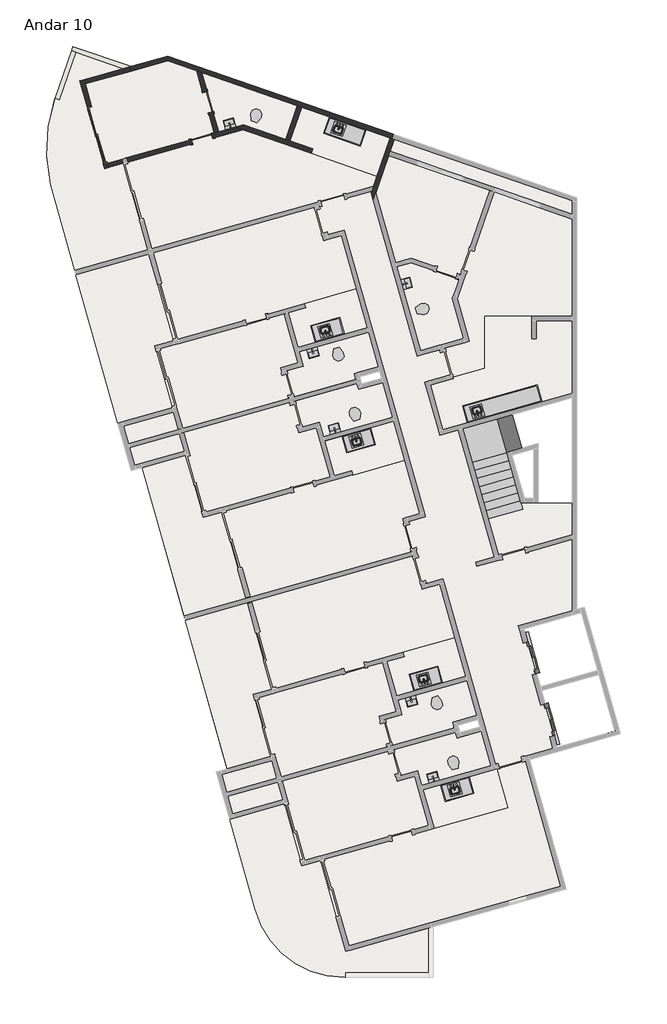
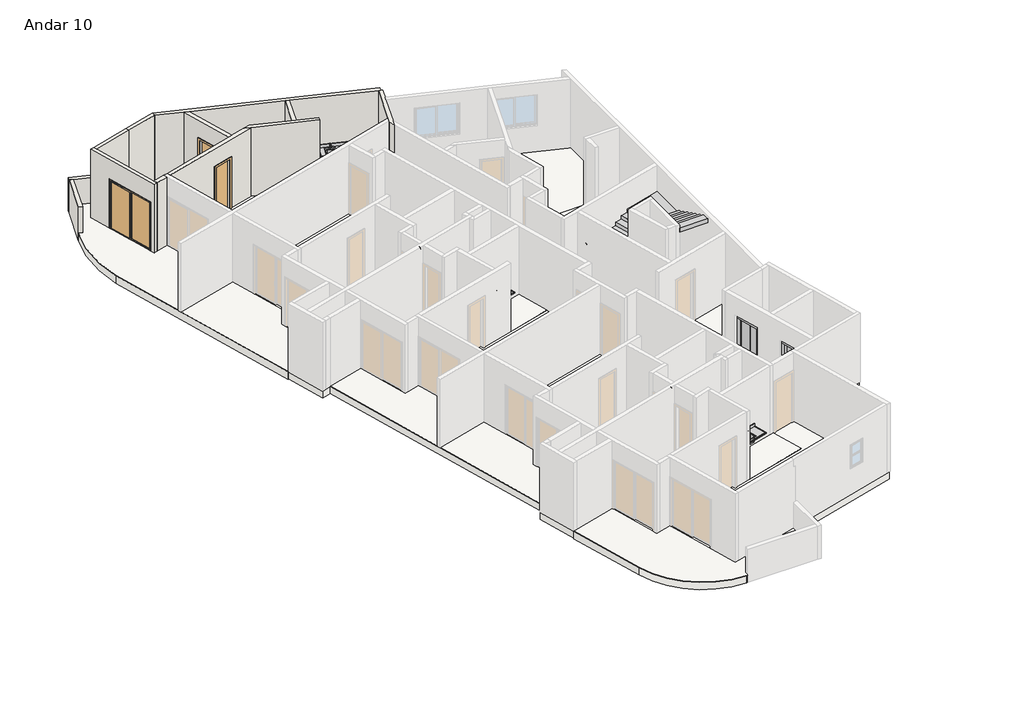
# One storey, part 3 of 3: 18 flow terminals, 18 slabs, 12 walls, 8 proxies, 3 doors, 1 stair flight.
"""IFC4 building model written with IfcOpenShell, lengths in millimetres."""

from ifc_helpers import new_model, si_unit, point, frame, frame_2d, origin, place, context, project, spatial, polyline, circle_curve, trimmed, segment, composite_curve, outline, extrude, faceted_brep, transform, mapped, element, save
from components import specialty_equipment_6c35da8b, specialty_equipment_77dfa124, rf_bancada_cozinha_rf_bancada_cozinha_340fef9f, rf_bancada_cozinha_rf_bancada_cozinha_cfb88ba1, rf_bancada_cozinha_rf_bancada_cozinha_2f873929, rf_bancada_cozinha_rf_bancada_cozinha_798ceddf, p3_70cm_ef4d15e3, p3_70cm_0a698c7c, p4_correr_200cm_eaaa0877, flow_terminal_cab7bae2, flow_terminal_3fb7dc42, flow_terminal_e42b9071, flow_terminal_c6e042c4, ap_01_creme_cr37_13e02e03, ap_01_creme_cr37_5ce6e54d

model = new_model("IFC4")

# Units and contexts
model_context = context("Model", 3, world=origin())
ifc_project = project(units=[si_unit("LENGTHUNIT", "METRE", prefix="MILLI")], contexts=[model_context])

# Site, building, storey
site = spatial("IfcSite", under=ifc_project)
building = spatial("IfcBuilding", under=site)
storey = spatial("IfcBuildingStorey", under=building, Name="Andar 10", Elevation=79750.0)

# Proxies
placement = place(None, origin())
specialty_equipment_shape = specialty_equipment_6c35da8b(model_context)
element("IfcBuildingElementProxy", 1, Name="Porta do elevador : Porta do elevador", ObjectType="Porta do elevador : Porta do elevador", at=placement, inside=storey, context=model_context, shape_type="MappedRepresentation", body=[
    mapped(specialty_equipment_shape, transform((-76594.4337486, 15747.4543727, 79750.0), x_axis=(0.27176796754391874, -0.9623628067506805, 0.0), y_axis=(0.9623628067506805, 0.27176796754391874, 0.0), z_axis=(0.0, 0.0, 1.0))),
])
specialty_equipment_2_shape = specialty_equipment_77dfa124(model_context)
element("IfcBuildingElementProxy", 2, Name="Porta do elevador : Porta do elevador", ObjectType="Porta do elevador : Porta do elevador", at=placement, inside=storey, context=model_context, shape_type="MappedRepresentation", body=[
    mapped(specialty_equipment_2_shape, transform((-75942.1906265, 13437.7836365, 79750.0), x_axis=(-0.27176796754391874, 0.9623628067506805, 0.0), y_axis=(-0.9623628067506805, -0.27176796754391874, 0.0), z_axis=(0.0, 0.0, 1.0))),
])
rf_bancada_cozinha_rf_bancada_cozinha_shape = rf_bancada_cozinha_rf_bancada_cozinha_340fef9f(model_context)
element("IfcBuildingElementProxy", 3, Name="RF_Bancada Cozinha : RF_Bancada Cozinha", ObjectType="RF_Bancada Cozinha : RF_Bancada Cozinha", at=placement, inside=storey, context=model_context, shape_type="MappedRepresentation", body=[
    mapped(rf_bancada_cozinha_rf_bancada_cozinha_shape, transform((-82760.548019, 26451.5820971, 80500.0), x_axis=(-0.9623628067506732, -0.27176796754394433, 0.0), y_axis=(0.27176796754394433, -0.9623628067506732, 0.0), z_axis=(0.0, 0.0, 1.0))),
])
element("IfcBuildingElementProxy", 4, Name="RF_Bancada Cozinha : RF_Bancada Cozinha", ObjectType="RF_Bancada Cozinha : RF_Bancada Cozinha", at=placement, inside=storey, context=model_context, shape_type="MappedRepresentation", body=[
    mapped(rf_bancada_cozinha_rf_bancada_cozinha_shape, transform((-79472.1556117, 14806.9921354, 80500.0), x_axis=(-0.962362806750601, -0.2717679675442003, 0.0), y_axis=(0.2717679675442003, -0.962362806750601, 0.0), z_axis=(0.0, 0.0, 1.0))),
])
rf_bancada_cozinha_rf_bancada_cozinha_2_shape = rf_bancada_cozinha_rf_bancada_cozinha_cfb88ba1(model_context)
element("IfcBuildingElementProxy", 5, Name="RF_Bancada Cozinha : RF_Bancada Cozinha", ObjectType="RF_Bancada Cozinha : RF_Bancada Cozinha", at=placement, inside=storey, context=model_context, shape_type="MappedRepresentation", body=[
    mapped(rf_bancada_cozinha_rf_bancada_cozinha_2_shape, transform((-81877.3021245, 23323.9029751, 80500.0), x_axis=(-0.9623628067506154, -0.27176796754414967, 0.0), y_axis=(0.27176796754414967, -0.9623628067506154, 0.0), z_axis=(0.0, 0.0, 1.0))),
])
element("IfcBuildingElementProxy", 6, Name="RF_Bancada Cozinha : RF_Bancada Cozinha", ObjectType="RF_Bancada Cozinha : RF_Bancada Cozinha", at=placement, inside=storey, context=model_context, shape_type="MappedRepresentation", body=[
    mapped(rf_bancada_cozinha_rf_bancada_cozinha_2_shape, transform((-78588.9097172, 11679.3130134, 80500.0), x_axis=(-0.9623628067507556, -0.27176796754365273, 0.0), y_axis=(0.27176796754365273, -0.9623628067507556, 0.0), z_axis=(0.0, 0.0, 1.0))),
])
rf_bancada_cozinha_rf_bancada_cozinha_3_shape = rf_bancada_cozinha_rf_bancada_cozinha_2f873929(model_context)
element("IfcBuildingElementProxy", 7, Name="RF_Bancada Cozinha : RF_Bancada Cozinha", ObjectType="RF_Bancada Cozinha : RF_Bancada Cozinha", at=placement, inside=storey, context=model_context, shape_type="MappedRepresentation", body=[
    mapped(rf_bancada_cozinha_rf_bancada_cozinha_3_shape, transform((-82030.0326121, 33293.9830661, 80500.0), x_axis=(-0.9449109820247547, 0.32732741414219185, 0.0), y_axis=(-0.32732741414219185, -0.9449109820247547, 0.0), z_axis=(0.0, 0.0, 1.0))),
])
rf_bancada_cozinha_rf_bancada_cozinha_4_shape = rf_bancada_cozinha_rf_bancada_cozinha_798ceddf(model_context)
element("IfcBuildingElementProxy", 8, Name="RF_Bancada Cozinha : RF_Bancada Cozinha", ObjectType="RF_Bancada Cozinha : RF_Bancada Cozinha", at=placement, inside=storey, context=model_context, shape_type="MappedRepresentation", body=[
    mapped(rf_bancada_cozinha_rf_bancada_cozinha_4_shape, transform((-76157.6622331, 24197.9763092, 80500.0), x_axis=(-0.9623628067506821, -0.27176796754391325, 0.0), y_axis=(0.27176796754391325, -0.9623628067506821, 0.0), z_axis=(0.0, 0.0, 1.0))),
])

# Doors
p3_70cm_shape = p3_70cm_ef4d15e3(model_context)
element("IfcDoor", 9, ObjectType="M_Folha única1 : P3 - 70CM", at=placement, inside=storey, context=model_context, shape_type="MappedRepresentation", body=[
    mapped(p3_70cm_shape, transform((-87513.806232, 32980.5300491, 79750.0), x_axis=(0.9623628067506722, 0.2717679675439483, 0.0), y_axis=(-0.2717679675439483, 0.9623628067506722, 0.0), z_axis=(0.0, 0.0, 1.0))),
])
p3_70cm_2_shape = p3_70cm_0a698c7c(model_context)
element("IfcDoor", 10, ObjectType="M_Folha única1 : P3 - 70CM", at=placement, inside=storey, context=model_context, shape_type="MappedRepresentation", body=[
    mapped(p3_70cm_2_shape, transform((-87314.304722, 34205.8663896, 79750.0), x_axis=(-0.2717679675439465, 0.9623628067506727, 0.0), y_axis=(-0.9623628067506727, -0.2717679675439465, 0.0), z_axis=(0.0, 0.0, 1.0))),
])
p4_correr_200cm_shape = p4_correr_200cm_eaaa0877(model_context)
element("IfcDoor", 11, ObjectType="Porta de correr dupla envidraçada sem revestimento : P4 - CORRER - 200CM", at=placement, inside=storey, context=model_context, shape_type="MappedRepresentation", body=[
    mapped(p4_correr_200cm_shape, transform((-91005.8131296, 33111.4415743, 79750.0), x_axis=(0.2717679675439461, -0.9623628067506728, 0.0), y_axis=(0.9623628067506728, 0.2717679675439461, 0.0), z_axis=(0.0, 0.0, 1.0))),
])

# Flow terminals
flow_terminal_shape = flow_terminal_cab7bae2(model_context)
element("IfcFlowTerminal", 12, ObjectType="RF_Pias : Pia da Bancada", at=placement, inside=storey, context=model_context, shape_type="MappedRepresentation", body=[
    mapped(flow_terminal_shape, transform((-83380.5102831, 26570.4992214, 79602.9), x_axis=(-0.9623628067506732, -0.27176796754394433, 0.0), y_axis=(0.27176796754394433, -0.9623628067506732, 0.0), z_axis=(0.0, 0.0, 1.0))),
])
element("IfcFlowTerminal", 13, ObjectType="RF_Pias : Pia da Bancada", at=placement, inside=storey, context=model_context, shape_type="MappedRepresentation", body=[
    mapped(flow_terminal_shape, transform((-80092.1178758, 14925.9092597, 79602.9), x_axis=(-0.962362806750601, -0.2717679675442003, 0.0), y_axis=(0.2717679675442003, -0.962362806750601, 0.0), z_axis=(0.0, 0.0, 1.0))),
])
element("IfcFlowTerminal", 14, ObjectType="RF_Pias : Pia da Bancada", at=placement, inside=storey, context=model_context, shape_type="MappedRepresentation", body=[
    mapped(flow_terminal_shape, transform((-78306.8185143, 23885.0542694, 79602.9), x_axis=(-0.9623628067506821, -0.27176796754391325, 0.0), y_axis=(0.27176796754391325, -0.9623628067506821, 0.0), z_axis=(0.0, 0.0, 1.0))),
])
flow_terminal_2_shape = flow_terminal_3fb7dc42(model_context)
element("IfcFlowTerminal", 15, ObjectType="Deca_Cuba de Apoio Retangular_L7300 : L.7300.17_Branco Gelo GE17", at=placement, inside=storey, context=model_context, shape_type="MappedRepresentation", body=[
    mapped(flow_terminal_2_shape, transform((-83090.0822283, 23308.7374016, 80500.0), x_axis=(-0.9623628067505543, -0.2717679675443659, 0.0), y_axis=(0.2717679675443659, -0.9623628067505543, 0.0), z_axis=(0.0, 0.0, 1.0))),
])
element("IfcFlowTerminal", 16, ObjectType="Deca_Cuba de Apoio Retangular_L7300 : L.7300.17_Branco Gelo GE17", at=placement, inside=storey, context=model_context, shape_type="MappedRepresentation", body=[
    mapped(flow_terminal_2_shape, transform((-79801.689821, 11664.1474399, 80500.0), x_axis=(-0.9623628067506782, -0.2717679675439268, 0.0), y_axis=(0.2717679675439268, -0.9623628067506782, 0.0), z_axis=(0.0, 0.0, 1.0))),
])
element("IfcFlowTerminal", 17, ObjectType="Deca_Cuba de Apoio Retangular_L7300 : L.7300.17_Branco Gelo GE17", at=placement, inside=storey, context=model_context, shape_type="MappedRepresentation", body=[
    mapped(flow_terminal_2_shape, transform((-80677.0991462, 28154.8020678, 80500.0), x_axis=(-0.2717679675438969, 0.9623628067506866, 0.0), y_axis=(-0.9623628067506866, -0.2717679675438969, 0.0), z_axis=(0.0, 0.0, 1.0))),
])
element("IfcFlowTerminal", 18, ObjectType="Deca_Cuba de Apoio Retangular_L7300 : L.7300.17_Branco Gelo GE17", at=placement, inside=storey, context=model_context, shape_type="MappedRepresentation", body=[
    mapped(flow_terminal_2_shape, transform((-86597.4204814, 33488.7004496, 80500.0), x_axis=(-0.9623628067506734, -0.27176796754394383, 0.0), y_axis=(0.27176796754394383, -0.9623628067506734, 0.0), z_axis=(0.0, 0.0, 1.0))),
])
flow_terminal_3_shape = flow_terminal_e42b9071(model_context)
element("IfcFlowTerminal", 19, ObjectType="Deca_Cuba de Apoio Retangular_L7300 : L.7300.17_Branco Gelo GE17", at=placement, inside=storey, context=model_context, shape_type="MappedRepresentation", body=[
    mapped(flow_terminal_3_shape, transform((-83802.1143033, 25830.1279553, 80500.0), x_axis=(-0.9623628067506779, -0.2717679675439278, 0.0), y_axis=(0.2717679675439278, -0.9623628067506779, 0.0), z_axis=(0.0, 0.0, 1.0))),
])
element("IfcFlowTerminal", 20, ObjectType="Deca_Cuba de Apoio Retangular_L7300 : L.7300.17_Branco Gelo GE17", at=placement, inside=storey, context=model_context, shape_type="MappedRepresentation", body=[
    mapped(flow_terminal_3_shape, transform((-80513.721896, 14185.5379936, 80500.0), x_axis=(-0.962362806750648, -0.27176796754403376, 0.0), y_axis=(0.27176796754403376, -0.962362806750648, 0.0), z_axis=(0.0, 0.0, 1.0))),
])
flow_terminal_4_shape = flow_terminal_c6e042c4(model_context)
element("IfcFlowTerminal", 21, ObjectType="RF_Pias : Pia da Bancada", at=placement, inside=storey, context=model_context, shape_type="MappedRepresentation", body=[
    mapped(flow_terminal_4_shape, transform((-82343.483233, 22898.2626745, 79602.9), x_axis=(-0.9623628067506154, -0.27176796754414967, 0.0), y_axis=(0.27176796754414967, -0.9623628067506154, 0.0), z_axis=(0.0, 0.0, 1.0))),
])
element("IfcFlowTerminal", 22, ObjectType="RF_Pias : Pia da Bancada", at=placement, inside=storey, context=model_context, shape_type="MappedRepresentation", body=[
    mapped(flow_terminal_4_shape, transform((-79055.0908257, 11253.6727129, 79602.9), x_axis=(-0.9623628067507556, -0.27176796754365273, 0.0), y_axis=(0.27176796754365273, -0.9623628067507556, 0.0), z_axis=(0.0, 0.0, 1.0))),
])
element("IfcFlowTerminal", 23, ObjectType="RF_Pias : Pia da Bancada", at=placement, inside=storey, context=model_context, shape_type="MappedRepresentation", body=[
    mapped(flow_terminal_4_shape, transform((-82939.3392028, 33309.5545572, 79602.9), x_axis=(-0.9449109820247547, 0.32732741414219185, 0.0), y_axis=(-0.32732741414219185, -0.9449109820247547, 0.0), z_axis=(0.0, 0.0, 1.0))),
])
ap_01_creme_cr37_shape = ap_01_creme_cr37_13e02e03(model_context)
element("IfcFlowTerminal", 24, ObjectType="Deca_Shared_Assento_P.900 : AP.01_Creme CR37", at=placement, inside=storey, context=model_context, shape_type="MappedRepresentation", body=[
    mapped(ap_01_creme_cr37_shape, transform((-83017.5301151, 25983.4740486, 80137.8723674), x_axis=(0.9623628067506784, 0.2717679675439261, 0.0), y_axis=(0.0, 0.0, 1.0), z_axis=(0.2717679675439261, -0.9623628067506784, 0.0))),
])
element("IfcFlowTerminal", 25, ObjectType="Deca_Shared_Assento_P.900 : AP.01_Creme CR37", at=placement, inside=storey, context=model_context, shape_type="MappedRepresentation", body=[
    mapped(ap_01_creme_cr37_shape, transform((-79729.1377078, 14338.8840869, 80137.8723674), x_axis=(0.962362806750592, 0.2717679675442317, 0.0), y_axis=(0.0, 0.0, 1.0), z_axis=(0.2717679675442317, -0.962362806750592, 0.0))),
])
element("IfcFlowTerminal", 26, ObjectType="Deca_Shared_Assento_P.900 : AP.01_Creme CR37", at=placement, inside=storey, context=model_context, shape_type="MappedRepresentation", body=[
    mapped(ap_01_creme_cr37_shape, transform((-80349.5164684, 27236.3600819, 80137.8723674), x_axis=(-0.271767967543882, 0.9623628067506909, 0.0), y_axis=(0.0, 0.0, 1.0), z_axis=(0.9623628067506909, 0.271767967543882, 0.0))),
])
element("IfcFlowTerminal", 27, ObjectType="Deca_Shared_Assento_P.900 : AP.01_Creme CR37", at=placement, inside=storey, context=model_context, shape_type="MappedRepresentation", body=[
    mapped(ap_01_creme_cr37_shape, transform((-85777.8760768, 33566.4131555, 80137.8723674), x_axis=(-0.9449109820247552, 0.3273274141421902, 0.0), y_axis=(0.0, 0.0, 1.0000000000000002), z_axis=(0.3273274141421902, 0.9449109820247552, 0.0))),
])
ap_01_creme_cr37_2_shape = ap_01_creme_cr37_5ce6e54d(model_context)
element("IfcFlowTerminal", 28, ObjectType="Deca_Shared_Assento_P.900 : AP.01_Creme CR37", at=placement, inside=storey, context=model_context, shape_type="MappedRepresentation", body=[
    mapped(ap_01_creme_cr37_2_shape, transform((-82341.1813229, 23588.4422577, 80137.8723674), x_axis=(0.9623628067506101, 0.27176796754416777, 0.0), y_axis=(0.0, 0.0, -1.0), z_axis=(-0.27176796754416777, 0.9623628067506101, 0.0))),
])
element("IfcFlowTerminal", 29, ObjectType="Deca_Shared_Assento_P.900 : AP.01_Creme CR37", at=placement, inside=storey, context=model_context, shape_type="MappedRepresentation", body=[
    mapped(ap_01_creme_cr37_2_shape, transform((-79052.7889156, 11943.852296, 80137.8723674), x_axis=(0.9623628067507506, 0.2717679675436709, 0.0), y_axis=(0.0, 0.0, -1.0000000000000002), z_axis=(-0.2717679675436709, 0.9623628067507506, 0.0))),
])

# Slabs
element("IfcSlab", 30, ObjectType="TZ_Piso de Áreas Molhadas", at=placement, inside=storey, context=model_context, shape_type="SweptSolid", body=[
    extrude(outline(composite_curve([segment(polyline([(-90765.4571774, 31984.341749), (-90143.7425806, 32159.9118263), (-89328.438678, 29272.823406), (-91766.0080564, 28584.4621444), (-92573.2320087, 31442.9384962)]), True, "CONTINUOUS"), segment(trimmed(circle_curve(frame_2d((-87414.5556743, 32622.5665107)), 5291.829908), [point((-92573.2320087, 31442.9384962))], [point((-92422.0860726, 34333.7366032))], False, "CARTESIAN"), True, "CONTINUOUS"), segment(polyline([(-92422.0860726, 34333.7366032), (-92280.2794148, 34284.6132387), (-91729.7010481, 35873.9929322), (-90151.0501028, 35327.1311202), (-91594.3494784, 34919.5483093), (-90765.4571774, 31984.341749)]), True, "CONTINUOUS")], self_intersect=False)), frame((0.0, 0.0, 79750.0), z_axis=(0.0, 0.0, 1.0), x_axis=(1.0, 0.0, 0.0)), (0.0, 0.0, 1.0), 20.0),
])
element("IfcSlab", 31, ObjectType="TZ_Piso de Áreas Molhadas", at=placement, inside=storey, context=model_context, shape_type="SweptSolid", body=[
    extrude(outline(polyline([(-88472.3695802, 26241.3805647), (-89094.084177, 26065.8104874), (-88509.7830468, 23996.7304529), (-90325.6378284, 23483.9392686), (-91725.2428613, 28440.1077234), (-89287.6734828, 29128.468985), (-88472.3695802, 26241.3805647)])), frame((0.0, 0.0, 79750.0), z_axis=(0.0, 0.0, 1.0), x_axis=(1.0, 0.0, 0.0)), (0.0, 0.0, 1.0), 20.0),
])
element("IfcSlab", 32, ObjectType="TZ_Piso de Áreas Molhadas", at=placement, inside=storey, context=model_context, shape_type="SweptSolid", body=[
    extrude(outline(polyline([(-86855.3501733, 20515.3218645), (-86040.0462707, 17628.2334443), (-88109.1263052, 17043.9323141), (-89508.731338, 22000.1007688), (-88061.3659003, 22408.8318218), (-87477.0647701, 20339.7517872), (-86855.3501733, 20515.3218645)])), frame((0.0, 0.0, 79750.0), z_axis=(0.0, 0.0, 1.0), x_axis=(1.0, 0.0, 0.0)), (0.0, 0.0, 1.0), 20.0),
])
element("IfcSlab", 33, ObjectType="TZ_Piso de Áreas Molhadas", at=placement, inside=storey, context=model_context, shape_type="SweptSolid", body=[
    extrude(outline(polyline([(-78926.5637691, 28284.9851582), (-79146.9727346, 27648.7205404), (-78771.1333302, 26317.8283554), (-80214.6775403, 25910.176404), (-81004.3851492, 28706.6252933), (-80530.2499593, 28840.5194505), (-78926.5637691, 28284.9851582)])), frame((0.0, 0.0, 79750.0), z_axis=(0.0, 0.0, 1.0), x_axis=(1.0, 0.0, 0.0)), (0.0, 0.0, 1.0), 20.0),
])
element("IfcSlab", 34, ObjectType="TZ_Piso de Áreas Molhadas", at=placement, inside=storey, context=model_context, shape_type="SweptSolid", body=[
    extrude(outline(polyline([(-78070.9150345, 27060.8243598), (-76493.6479314, 27060.8243598), (-76493.6479314, 26310.8243598), (-76343.6479314, 26310.8243598), (-76343.6479314, 26910.8243598), (-75147.8282189, 26910.8243598), (-75147.8282189, 24483.4871675), (-79467.3156296, 23263.6786855), (-79888.5559793, 24755.3410359), (-79127.7601479, 24970.1871785), (-79141.3485461, 25018.3053183), (-78070.9150345, 25320.5920836), (-78070.9150345, 27060.8243598)])), frame((0.0, 0.0, 79750.0), z_axis=(0.0, 0.0, 1.0), x_axis=(1.0, 0.0, 0.0)), (0.0, 0.0, 1.0), 20.0),
])
element("IfcSlab", 35, ObjectType="TZ_Piso de Áreas Molhadas", at=placement, inside=storey, context=model_context, shape_type="SweptSolid", body=[
    extrude(outline(polyline([(-84719.4810559, 32955.6762822), (-86137.8721095, 33447.0223292), (-86956.7711455, 33215.7680402), (-87515.4733556, 35194.1992432), (-84326.6881589, 34089.5694606), (-84719.4810559, 32955.6762822)])), frame((0.0, 0.0, 79750.0), z_axis=(0.0, 0.0, 1.0), x_axis=(1.0, 0.0, 0.0)), (0.0, 0.0, 1.0), 20.0),
])
element("IfcSlab", 36, ObjectType="TZ_Piso de Áreas Molhadas", at=placement, inside=storey, context=model_context, shape_type="SweptSolid", body=[
    extrude(outline(polyline([(-84577.7444086, 32906.57717), (-84184.9515116, 34040.4703485), (-81226.8582774, 33015.7547641), (-81668.7502865, 31740.1249383), (-83870.9147351, 32502.9785914), (-83821.815623, 32644.7152387), (-84577.7444086, 32906.57717)])), frame((0.0, 0.0, 79750.0), z_axis=(0.0, 0.0, 1.0), x_axis=(1.0, 0.0, 0.0)), (0.0, 0.0, 1.0), 20.0),
])
element("IfcSlab", 37, ObjectType="TZ_Piso de Áreas Molhadas", at=placement, inside=storey, context=model_context, shape_type="SweptSolid", body=[
    extrude(outline(polyline([(-81949.8925784, 26524.6420501), (-81623.7710174, 25369.806682), (-82432.1557751, 25141.5215893), (-82377.8021816, 24949.0490279), (-84456.5058441, 24362.030218), (-84701.0970149, 25228.1567441), (-84123.6793309, 25391.2175246), (-84259.5633146, 25872.398928), (-81949.8925784, 26524.6420501)])), frame((0.0, 0.0, 79750.0), z_axis=(0.0, 0.0, 1.0), x_axis=(1.0, 0.0, 0.0)), (0.0, 0.0, 1.0), 20.0),
])
element("IfcSlab", 38, ObjectType="TZ_Piso de Áreas Molhadas", at=placement, inside=storey, context=model_context, shape_type="SweptSolid", body=[
    extrude(outline(polyline([(-84089.7975819, 27479.0039186), (-82357.5445298, 27968.1862602), (-81990.6577736, 26668.9964711), (-84300.3285098, 26016.753349), (-84626.4500708, 27171.5887171), (-84049.0323868, 27334.6494976), (-84089.7975819, 27479.0039186)])), frame((0.0, 0.0, 79750.0), z_axis=(0.0, 0.0, 1.0), x_axis=(1.0, 0.0, 0.0)), (0.0, 0.0, 1.0), 20.0),
])
element("IfcSlab", 39, ObjectType="TZ_Piso de Áreas Molhadas", at=placement, inside=storey, context=model_context, shape_type="SweptSolid", body=[
    extrude(outline(polyline([(-84171.1494782, 23351.5492709), (-84415.740649, 24217.675797), (-82337.0369864, 24804.6946069), (-82282.6833929, 24612.2220455), (-81474.2986352, 24840.5071383), (-81148.1770742, 23685.6717702), (-83457.8478104, 23033.4286481), (-83593.7317942, 23514.6100514), (-84171.1494782, 23351.5492709)])), frame((0.0, 0.0, 79750.0), z_axis=(0.0, 0.0, 1.0), x_axis=(1.0, 0.0, 0.0)), (0.0, 0.0, 1.0), 20.0),
])
element("IfcSlab", 40, ObjectType="TZ_Piso de Áreas Molhadas", at=placement, inside=storey, context=model_context, shape_type="SweptSolid", body=[
    extrude(outline(composite_curve([segment(polyline([(-79945.4990038, 5119.4122055), (-82713.5540687, 5119.4122055), (-82713.5540687, 4969.4122055), (-82751.3896972, 4969.4122055)]), True, "CONTINUOUS"), segment(trimmed(circle_curve(frame_2d((-82751.3896972, 8069.4122055)), 3100.0), [point((-82751.3896972, 4969.4122055))], [point((-85734.7143981, 7226.9315061))], False, "CARTESIAN"), True, "CONTINUOUS"), segment(polyline([(-85734.7143981, 7226.9315061), (-86588.8282733, 10251.4506708), (-84772.9735093, 10764.2419177), (-84188.6722855, 8695.1618243), (-83566.957766, 8870.7319029), (-82710.8885369, 5839.2889958), (-79945.4990038, 6620.2256515), (-79945.4990038, 5119.4122055)]), True, "CONTINUOUS")], self_intersect=False)), frame((0.0, 0.0, 79750.0), z_axis=(0.0, 0.0, 1.0), x_axis=(1.0, 0.0, 0.0)), (0.0, 0.0, 1.0), 20.0),
])
element("IfcSlab", 41, ObjectType="TZ_Piso de Áreas Molhadas", at=placement, inside=storey, context=model_context, shape_type="SweptSolid", body=[
    extrude(outline(polyline([(-78185.906228, 13195.9171766), (-77859.7846669, 12041.0818085), (-80169.4554031, 11388.8386864), (-80305.3393869, 11870.0200898), (-80882.7570709, 11706.9593092), (-81127.3482417, 12573.0858353), (-79048.6445791, 13160.1046452), (-78994.2909856, 12967.6320839), (-78185.906228, 13195.9171766)])), frame((0.0, 0.0, 79750.0), z_axis=(0.0, 0.0, 1.0), x_axis=(1.0, 0.0, 0.0)), (0.0, 0.0, 1.0), 20.0),
])
element("IfcSlab", 42, ObjectType="TZ_Piso de Áreas Molhadas", at=placement, inside=storey, context=model_context, shape_type="SweptSolid", body=[
    extrude(outline(polyline([(-77307.7782946, 10638.3027935), (-79761.8034518, 9945.2944763), (-80128.690208, 11244.4842654), (-77674.6650508, 11937.4925826), (-77307.7782946, 10638.3027935)])), frame((0.0, 0.0, 79750.0), z_axis=(0.0, 0.0, 1.0), x_axis=(1.0, 0.0, 0.0)), (0.0, 0.0, 1.0), 20.0),
])
element("IfcSlab", 43, ObjectType="TZ_Piso de Áreas Molhadas", at=placement, inside=storey, context=model_context, shape_type="SweptSolid", body=[
    extrude(outline(polyline([(-81107.9410005, 23543.1910314), (-80740.5251229, 22242.1275601), (-82472.778175, 21752.9452185), (-82513.5433702, 21897.2996395), (-83090.9610542, 21734.238859), (-83418.0192411, 22888.8089065), (-81107.9410005, 23543.1910314)])), frame((0.0, 0.0, 79750.0), z_axis=(0.0, 0.0, 1.0), x_axis=(1.0, 0.0, 0.0)), (0.0, 0.0, 1.0), 20.0),
])
element("IfcSlab", 44, ObjectType="TZ_Piso de Áreas Molhadas", at=placement, inside=storey, context=model_context, shape_type="SweptSolid", body=[
    extrude(outline(polyline([(-85183.9771729, 14596.790603), (-85805.6917697, 14421.2205257), (-85221.3906395, 12352.1404912), (-86668.7560772, 11943.4094383), (-88068.36111, 16899.5778931), (-85999.2810755, 17483.8790233), (-85183.9771729, 14596.790603)])), frame((0.0, 0.0, 79750.0), z_axis=(0.0, 0.0, 1.0), x_axis=(1.0, 0.0, 0.0)), (0.0, 0.0, 1.0), 20.0),
])
element("IfcSlab", 45, ObjectType="TZ_Piso de Áreas Molhadas", at=placement, inside=storey, context=model_context, shape_type="SweptSolid", body=[
    extrude(outline(polyline([(-81412.7046076, 13583.5667824), (-80835.2869236, 13746.6275629), (-80971.1709074, 14227.8089663), (-78661.5001712, 14880.0520884), (-78335.3786101, 13725.2167203), (-79143.7633678, 13496.9316276), (-79089.4097743, 13304.4590662), (-81168.1134368, 12717.4402563), (-81412.7046076, 13583.5667824)])), frame((0.0, 0.0, 79750.0), z_axis=(0.0, 0.0, 1.0), x_axis=(1.0, 0.0, 0.0)), (0.0, 0.0, 1.0), 20.0),
])
element("IfcSlab", 46, ObjectType="TZ_Piso de Áreas Molhadas", at=placement, inside=storey, context=model_context, shape_type="SweptSolid", body=[
    extrude(outline(polyline([(-78701.7362448, 15022.5328272), (-81012.8731576, 14371.8995868), (-81338.0576635, 15526.9987554), (-80760.6399795, 15690.059536), (-80801.4051746, 15834.413957), (-79069.1521225, 16323.5962985), (-78701.7362448, 15022.5328272)])), frame((0.0, 0.0, 79750.0), z_axis=(0.0, 0.0, 1.0), x_axis=(1.0, 0.0, 0.0)), (0.0, 0.0, 1.0), 20.0),
])
element("IfcSlab", 47, ObjectType="TZ_Laje 30cm", at=placement, inside=storey, context=model_context, shape_type="SweptSolid", body=[
    extrude(outline(composite_curve([segment(polyline([(-82713.5540687, 4969.4122055), (-82751.3896972, 4969.4122055)]), True, "CONTINUOUS"), segment(trimmed(circle_curve(frame_2d((-82751.3896972, 8069.4122055)), 3100.0), [point((-82751.3896972, 4969.4122055))], [point((-85734.7143981, 7226.9315061))], False, "CARTESIAN"), True, "CONTINUOUS"), segment(polyline([(-85734.7143981, 7226.9315061), (-86588.8282747, 10251.4506758), (-86574.3928326, 10255.5271953), (-87018.7334595, 11828.9903844), (-86664.6795577, 11928.9739962), (-89512.8078575, 22014.5362109), (-89866.8617594, 21914.5525991), (-90311.2023863, 23488.0157882), (-90325.6378284, 23483.9392686), (-92573.2320087, 31442.9384962)]), True, "CONTINUOUS"), segment(trimmed(circle_curve(frame_2d((-87414.5556743, 32622.5665107)), 5291.829908), [point((-92573.2320087, 31442.9384962))], [point((-92426.4466323, 34320.9224218))], False, "CARTESIAN"), True, "CONTINUOUS"), segment(polyline([(-92426.4466323, 34320.9224218), (-92422.0160621, 34333.7123509), (-92403.1178425, 34327.1658026), (-91809.986912, 36039.3839237), (-89899.2062586, 35377.468778), (-88658.6666899, 35727.7929124), (-75017.8282189, 31002.4584964), (-75017.8282189, 17238.3098681), (-74750.7083414, 17313.7436086), (-73565.8000029, 13117.8417711), (-76592.4310301, 12263.1315132), (-75369.6745845, 7933.2050117), (-79815.4990038, 6677.7193903), (-79815.4990038, 4989.4122055), (-82713.5540687, 4989.4122055), (-82713.5540687, 4969.4122055)]), True, "CONTINUOUS")], self_intersect=False), holes=[polyline([(-81583.0058223, 25225.452261), (-82247.0361589, 25037.9323634), (-82179.094167, 24797.3416617), (-81515.0638304, 24984.8615593), (-81583.0058223, 25225.452261)]), polyline([(-78294.613415, 13580.8622993), (-78958.6437516, 13393.3424017), (-78890.7017597, 13152.7517), (-78226.6714231, 13340.2715976), (-78294.613415, 13580.8622993)]), polyline([(-74840.4856705, 17153.3066079), (-76760.3994699, 16611.1295126), (-76221.8794944, 14704.1660107), (-75646.150803, 12665.442005), (-73726.2370035, 13207.6191002), (-74270.7319215, 15135.7405865), (-74840.4856705, 17153.3066079)]), polyline([(-77952.9130698, 20291.1915783), (-76801.2963825, 20616.4041949), (-76858.5413412, 20819.1154254), (-75147.8282189, 20819.1154254), (-75147.8282189, 24343.0530162), (-78807.9060206, 23309.4595541), (-77952.9130698, 20291.1915783)])]), frame((0.0, 0.0, 79450.0), z_axis=(0.0, 0.0, 1.0), x_axis=(1.0, 0.0, 0.0)), (0.0, 0.0, 1.0), 300.0),
])

# Stair flight
element("IfcStairFlight", 48, ObjectType="Profundidade de 150mm", at=placement, inside=storey, context=model_context, shape_type="Brep", body=[
    faceted_brep([(-78029.0944782, 20560.1246789, 79888.0952381), (-77952.7808761, 20290.7249124, 79888.0952381), (-76802.2714069, 20616.6328483, 79888.0952381), (-76878.3664628, 20886.0945229, 79888.0952381), (-78029.0944782, 20560.1246789, 79750.0), (-77952.7808761, 20290.7249124, 79750.0), (-76802.2714069, 20616.6328483, 79750.0), (-76878.3664628, 20886.0945229, 79750.0), (-78105.4080802, 20829.5244453, 80026.1904762), (-78029.0944782, 20560.1246789, 80026.1904762), (-76878.3664628, 20886.0945229, 80026.1904762), (-76954.4615188, 21155.5561975, 80026.1904762), (-78105.4080802, 20829.5244453, 79858.939228), (-78045.2065482, 20617.0029783, 79750.0), (-76894.4323913, 20942.985893, 79750.0), (-76954.4615188, 21155.5561975, 79858.939228), (-78181.7216823, 21098.9242117, 80164.2857143), (-78105.4080802, 20829.5244453, 80164.2857143), (-76954.4615188, 21155.5561975, 80164.2857143), (-77030.5565747, 21425.017872, 80164.2857143), (-78181.7216823, 21098.9242117, 79997.0344661), (-77030.5565747, 21425.017872, 79997.0344661), (-78258.0352843, 21368.3239781, 80302.3809524), (-78181.7216823, 21098.9242117, 80302.3809524), (-77030.5565747, 21425.017872, 80302.3809524), (-77106.6516307, 21694.4795466, 80302.3809524), (-78258.0352843, 21368.3239781, 80135.1297042), (-77106.6516307, 21694.4795466, 80135.1297042), (-78334.3488864, 21637.7237445, 80440.4761905), (-78258.0352843, 21368.3239781, 80440.4761905), (-77106.6516307, 21694.4795466, 80440.4761905), (-77182.7466866, 21963.9412211, 80440.4761905), (-78334.3488864, 21637.7237445, 80273.2249423), (-77182.7466866, 21963.9412211, 80273.2249423), (-78410.6624885, 21907.1235109, 80578.5714286), (-78334.3488864, 21637.7237445, 80578.5714286), (-77182.7466866, 21963.9412211, 80578.5714286), (-77258.8417426, 22233.4028957, 80578.5714286), (-78410.6624885, 21907.1235109, 80411.3201804), (-77258.8417426, 22233.4028957, 80411.3201804), (-78486.9760905, 22176.5232773, 80716.6666667), (-78410.6624885, 21907.1235109, 80716.6666667), (-77258.8417426, 22233.4028957, 80716.6666667), (-77334.9367985, 22502.8645702, 80716.6666667), (-78486.9760905, 22176.5232773, 80549.4154185), (-77334.9367985, 22502.8645702, 80549.4154185), (-77650.6473278, 23620.8332322, 80854.7619048), (-78803.8582924, 23295.1703972, 80854.7619048), (-78572.8230038, 22479.5772253, 80854.7619048), (-78486.9760905, 22176.5232773, 80854.7619048), (-77334.9367985, 22502.8645702, 80854.7619048), (-77337.6544782, 22512.4881983, 80854.7619048), (-77650.6473278, 23620.8332322, 80704.7619048), (-78803.8582924, 23295.1703972, 80704.7619048), (-78572.8230038, 22479.5772253, 80704.7619048), (-77420.5378643, 22805.9881601, 80704.7619048), (-77337.6544782, 22512.4881983, 80704.7619048), (-77650.6473278, 23620.8332322, 80992.8571429), (-77337.6544782, 22512.4881983, 80992.8571429), (-77303.5536842, 22522.118146, 80992.8571429), (-77083.6709973, 22584.2122653, 80992.8571429), (-77396.6638468, 23692.5572992, 80992.8571429), (-77616.5465338, 23630.4631799, 80992.8571429), (-77396.6638468, 23692.5572992, 80819.0904432), (-77616.5465338, 23630.4631799, 80704.7619048), (-77303.5536842, 22522.118146, 80704.7619048), (-77083.6709973, 22584.2122653, 80819.0904432), (-77127.202261, 23768.6523301, 81130.952381), (-77396.6638468, 23692.5572992, 81130.952381), (-77083.6709973, 22584.2122653, 81130.952381), (-76814.2094114, 22660.3072962, 81130.952381), (-77127.202261, 23768.6523301, 80959.1976509), (-76814.2094114, 22660.3072962, 80959.1976509), (-76857.7406751, 23844.747361, 81269.047619), (-77127.202261, 23768.6523301, 81269.047619), (-76814.2094114, 22660.3072962, 81269.047619), (-76544.7478255, 22736.4023271, 81269.047619), (-76857.7406751, 23844.747361, 81099.3048586), (-76544.7478255, 22736.4023271, 81099.3048586), (-76588.2790892, 23920.842392, 81407.1428571), (-76857.7406751, 23844.747361, 81407.1428571), (-76544.7478255, 22736.4023271, 81407.1428571), (-76275.2862396, 22812.497358, 81407.1428571), (-76588.2790892, 23920.842392, 81239.4120663), (-75975.593386, 22897.1295956, 81395.2380952), (-76275.2862396, 22812.497358, 81395.2380952), (-75147.8282189, 22779.1154254, 81545.2380952), (-75147.8282189, 24327.6207947, 81545.2380952), (-76288.5862355, 24005.4746296, 81545.2380952), (-76588.2790892, 23920.842392, 81545.2380952), (-76275.2862396, 22812.497358, 81545.2380952), (-76275.2862396, 22779.1154254, 81545.2380952), (-75147.8282189, 22779.1154254, 81395.2380952), (-75147.8282189, 24327.6207947, 81395.2380952), (-76288.5862355, 24005.4746296, 81395.2380952), (-76275.2862396, 22779.1154254, 81395.2380952), (-75147.8282189, 22779.1154254, 81683.3333333), (-76275.2862396, 22779.1154254, 81683.3333333), (-76275.2862396, 22744.1370326, 81683.3333333), (-76275.2862396, 22499.1154254, 81683.3333333), (-75147.8282189, 22499.1154254, 81683.3333333), (-75147.8282189, 22744.1370326, 81683.3333333), (-75147.8282189, 22499.1154254, 81516.0820852), (-75147.8282189, 22744.1370326, 81395.2380952), (-76275.2862396, 22744.1370326, 81395.2380952), (-76275.2862396, 22499.1154254, 81516.0820852), (-75147.8282189, 22219.1154254, 81821.4285714), (-75147.8282189, 22499.1154254, 81821.4285714), (-76275.2862396, 22499.1154254, 81821.4285714), (-76275.2862396, 22219.1154254, 81821.4285714), (-75147.8282189, 22219.1154254, 81654.1773233), (-76275.2862396, 22219.1154254, 81654.1773233), (-75147.8282189, 21939.1154254, 81959.5238095), (-75147.8282189, 22219.1154254, 81959.5238095), (-76275.2862396, 22219.1154254, 81959.5238095), (-76275.2862396, 21939.1154254, 81959.5238095), (-75147.8282189, 21939.1154254, 81792.2725614), (-76275.2862396, 21939.1154254, 81792.2725614), (-75147.8282189, 21659.1154254, 82097.6190476), (-75147.8282189, 21939.1154254, 82097.6190476), (-76275.2862396, 21939.1154254, 82097.6190476), (-76275.2862396, 21659.1154254, 82097.6190476), (-75147.8282189, 21659.1154254, 81930.3677995), (-76275.2862396, 21659.1154254, 81930.3677995), (-75147.8282189, 21379.1154254, 82235.7142857), (-75147.8282189, 21659.1154254, 82235.7142857), (-76275.2862396, 21659.1154254, 82235.7142857), (-76275.2862396, 21379.1154254, 82235.7142857), (-75147.8282189, 21379.1154254, 82068.4630376), (-76275.2862396, 21379.1154254, 82068.4630376), (-75147.8282189, 21099.1154254, 82373.8095238), (-75147.8282189, 21379.1154254, 82373.8095238), (-76275.2862396, 21379.1154254, 82373.8095238), (-76275.2862396, 21099.1154254, 82373.8095238), (-75147.8282189, 21099.1154254, 82206.5582757), (-76275.2862396, 21099.1154254, 82206.5582757), (-75147.8282189, 20819.1154254, 82511.9047619), (-75147.8282189, 21099.1154254, 82511.9047619), (-76275.2862396, 21099.1154254, 82511.9047619), (-76275.2862396, 20819.1154254, 82511.9047619), (-75147.8282189, 20819.1154254, 82344.6535138), (-76275.2862396, 20819.1154254, 82344.6535138), (-76275.2862396, 23958.3777566, 81395.2380952)], [[[0, 1, 2, 3]], [[1, 0, 4, 5]], [[2, 1, 5, 6]], [[3, 2, 6, 7]], [[8, 9, 10, 11]], [[4, 0, 9, 8, 12, 13]], [[0, 3, 10, 9]], [[3, 7, 14, 15, 11, 10]], [[16, 17, 18, 19]], [[17, 16, 20, 12, 8]], [[8, 11, 18, 17]], [[19, 18, 11, 15, 21]], [[22, 23, 24, 25]], [[23, 22, 26, 20, 16]], [[16, 19, 24, 23]], [[25, 24, 19, 21, 27]], [[28, 29, 30, 31]], [[29, 28, 32, 26, 22]], [[22, 25, 30, 29]], [[31, 30, 25, 27, 33]], [[34, 35, 36, 37]], [[35, 34, 38, 32, 28]], [[28, 31, 36, 35]], [[37, 36, 31, 33, 39]], [[40, 41, 42, 43]], [[41, 40, 44, 38, 34]], [[34, 37, 42, 41]], [[43, 42, 37, 39, 45]], [[46, 47, 48, 49, 50, 51]], [[47, 46, 52, 53]], [[40, 49, 48, 47, 53, 54, 44]], [[40, 43, 50, 49]], [[51, 50, 43, 45, 55, 56]], [[57, 58, 59, 60, 61, 62]], [[46, 57, 62, 61, 63, 64, 52]], [[46, 51, 58, 57]], [[58, 51, 56, 65, 66, 60, 59]], [[67, 68, 69, 70]], [[68, 67, 71, 63, 61]], [[61, 60, 69, 68]], [[70, 69, 60, 66, 72]], [[73, 74, 75, 76]], [[74, 73, 77, 71, 67]], [[67, 70, 75, 74]], [[76, 75, 70, 72, 78]], [[79, 80, 81, 82]], [[80, 79, 83, 77, 73]], [[73, 76, 81, 80]], [[82, 81, 76, 78, 84, 85]], [[86, 87, 88, 89, 90, 91]], [[87, 86, 92, 93]], [[79, 89, 88, 87, 93, 94, 83]], [[79, 82, 90, 89]], [[91, 90, 82, 85, 95]], [[96, 97, 98, 99, 100, 101]], [[86, 96, 101, 100, 102, 103, 92]], [[86, 91, 97, 96]], [[97, 91, 95, 104, 105, 99, 98]], [[106, 107, 108, 109]], [[107, 106, 110, 102, 100]], [[100, 99, 108, 107]], [[109, 108, 99, 105, 111]], [[112, 113, 114, 115]], [[113, 112, 116, 110, 106]], [[106, 109, 114, 113]], [[115, 114, 109, 111, 117]], [[118, 119, 120, 121]], [[119, 118, 122, 116, 112]], [[112, 115, 120, 119]], [[121, 120, 115, 117, 123]], [[124, 125, 126, 127]], [[125, 124, 128, 122, 118]], [[118, 121, 126, 125]], [[127, 126, 121, 123, 129]], [[130, 131, 132, 133]], [[131, 130, 134, 128, 124]], [[124, 127, 132, 131]], [[133, 132, 127, 129, 135]], [[136, 137, 138, 139]], [[137, 136, 140, 134, 130]], [[130, 133, 138, 137]], [[139, 138, 133, 135, 141]], [[136, 139, 141, 140]], [[5, 4, 13, 14, 7, 6]], [[54, 55, 45, 39, 33, 27, 21, 15, 14, 13, 12, 20, 26, 32, 38, 44]], [[55, 54, 53, 52, 64, 65, 56]], [[65, 64, 63, 71, 77, 83, 94, 142, 84, 78, 72, 66]], [[142, 94, 93, 92, 103, 104, 95, 85, 84]], [[104, 103, 102, 110, 116, 122, 128, 134, 140, 141, 135, 129, 123, 117, 111, 105]]]),
])

# Walls
element("IfcWall", 49, ObjectType="Básica .15 - Externa", at=placement, inside=storey, context=model_context, shape_type="Brep", body=[
    faceted_brep([(-88662.6343714, 35591.588263, 79750.0), (-87688.240739, 35254.0477389, 79750.0), (-87515.4733556, 35194.1992432, 79750.0), (-84326.6881589, 34089.5694606, 79750.0), (-84184.9515116, 34040.4703485, 79750.0), (-81226.8582774, 33015.7547641, 79750.0), (-81156.3583355, 32991.3328194, 79750.0), (-81156.3583355, 32991.3328194, 81050.0), (-81085.1216301, 32966.655652, 81050.0), (-81085.1216301, 32966.655652, 82350.0), (-81156.3583355, 32991.3328194, 82350.0), (-81156.3583355, 32991.3328194, 82650.0), (-81226.8582774, 33015.7547641, 82650.0), (-84184.9515116, 34040.4703485, 82650.0), (-84326.6881589, 34089.5694606, 82650.0), (-87515.4733556, 35194.1992432, 82650.0), (-87688.240739, 35254.0477389, 82650.0), (-88662.6343714, 35591.588263, 82650.0), (-88658.0562773, 35748.7474739, 79750.0), (-88658.0562773, 35748.7474739, 82650.0), (-81107.2592234, 33133.0694667, 82650.0), (-81107.2592234, 33133.0694667, 82350.0), (-81036.022518, 33108.3922993, 82350.0), (-81036.022518, 33108.3922993, 81050.0), (-81107.2592234, 33133.0694667, 81050.0), (-81107.2592234, 33133.0694667, 79750.0)], [[[0, 1, 2, 3, 4, 5, 6, 7, 8, 9, 10, 11, 12, 13, 14, 15, 16, 17]], [[18, 19, 20, 21, 22, 23, 24, 25]], [[6, 5, 4, 3, 2, 1, 0, 18, 25]], [[17, 16, 15, 14, 13, 12, 11, 20, 19]], [[0, 17, 19, 18]], [[7, 6, 25, 24]], [[23, 8, 7, 24]], [[11, 10, 21, 20]], [[21, 10, 9, 22]], [[9, 8, 23, 22]]]),
])
element("IfcWall", 50, ObjectType="Básica .15 -  Interna", at=placement, inside=storey, context=model_context, shape_type="Brep", body=[
    faceted_brep([(-81789.2550074, 30934.0017027, 79750.0), (-81703.3880158, 31181.8778654, 79750.0), (-81272.8781344, 32424.6503839, 79750.0), (-81223.7790223, 32566.3870312, 79750.0), (-81085.1216301, 32966.655652, 79750.0), (-81085.1216301, 32966.655652, 81050.0), (-81085.1216301, 32966.655652, 82350.0), (-81085.1216301, 32966.655652, 82650.0), (-81223.7790223, 32566.3870312, 82650.0), (-81272.8781344, 32424.6503839, 82650.0), (-81703.3880158, 31181.8778654, 82650.0), (-81789.2550074, 30934.0017027, 82650.0), (-81860.5472267, 31186.4559595, 79750.0), (-81860.5472267, 31186.4559595, 82650.0), (-81845.4155775, 31230.1371819, 82650.0), (-81785.5670817, 31402.9045654, 82650.0), (-81226.8582774, 33015.7547641, 82650.0), (-81226.8582774, 33015.7547641, 79750.0), (-81785.5670817, 31402.9045654, 79750.0), (-81845.4155775, 31230.1371819, 79750.0), (-81156.3583355, 32991.3328194, 79750.0), (-81156.3583355, 32991.3328194, 82650.0)], [[[0, 1, 2, 3, 4, 5, 6, 7, 8, 9, 10, 11]], [[12, 13, 14, 15, 16, 17, 18, 19]], [[4, 3, 2, 1, 0, 12, 19, 18, 17, 20]], [[11, 10, 9, 8, 7, 21, 16, 15, 14, 13]], [[0, 11, 13, 12]], [[4, 20, 17, 16, 21, 7, 6, 5]]]),
])
element("IfcWall", 51, ObjectType="Básica .15 -  Interna", at=placement, inside=storey, context=model_context, shape_type="Brep", body=[
    faceted_brep([(-91449.9950574, 34960.3135045, 82650.0), (-91409.2298622, 34815.9590835, 82650.0), (-90661.8679515, 32169.4613651, 82650.0), (-90621.1027564, 32025.1069441, 82650.0), (-90621.1027564, 32025.1069441, 79750.0), (-90661.8679515, 32169.4613651, 79750.0), (-90661.8679515, 32169.4613651, 81850.0), (-91205.4038866, 34094.1869786, 81850.0), (-91205.4038866, 34094.1869786, 79750.0), (-91409.2298622, 34815.9590835, 79750.0), (-91449.9950574, 34960.3135045, 79750.0), (-90765.4571774, 31984.341749, 82650.0), (-91594.3494784, 34919.5483093, 82650.0), (-91594.3494784, 34919.5483093, 79750.0), (-91349.7583076, 34053.4217835, 79750.0), (-91349.7583076, 34053.4217835, 81850.0), (-90806.2223725, 32128.69617, 81850.0), (-90806.2223725, 32128.69617, 79750.0), (-90765.4571774, 31984.341749, 79750.0)], [[[0, 1, 2, 3, 4, 5, 6, 7, 8, 9, 10]], [[11, 12, 13, 14, 15, 16, 17, 18]], [[4, 18, 17, 5]], [[13, 10, 9, 8, 14]], [[3, 2, 1, 0, 12, 11]], [[4, 3, 11, 18]], [[16, 6, 5, 17]], [[6, 16, 15, 7]], [[7, 15, 14, 8]], [[0, 10, 13, 12]]]),
])
element("IfcWall", 52, ObjectType="Básica .15 - Externa", at=placement, inside=storey, context=model_context, shape_type="Brep", body=[
    faceted_brep([(-91871.4376954, 35923.0920443, 79450.0), (-91729.7010481, 35873.9929322, 79450.0), (-90151.0501028, 35327.1311202, 79450.0), (-90151.0501028, 35327.1311202, 80850.0), (-91729.7010481, 35873.9929322, 80850.0), (-91871.4376954, 35923.0920443, 80850.0), (-91822.3385833, 36064.8286916, 79450.0), (-91822.3385833, 36064.8286916, 80850.0), (-89898.595846, 35398.4233395, 80850.0), (-89898.595846, 35398.4233395, 79450.0)], [[[0, 1, 2, 3, 4, 5]], [[6, 7, 8, 9]], [[2, 1, 0, 6, 9]], [[5, 4, 3, 8, 7]], [[0, 5, 7, 6]], [[3, 2, 9, 8]]]),
])
element("IfcWall", 53, ObjectType="Básica .15 - Externa", at=placement, inside=storey, context=model_context, shape_type="SweptSolid", body=[
    extrude(outline(polyline([(-91729.7010481, 35873.9929322), (-92280.2794148, 34284.6132387), (-92422.0160621, 34333.7123509), (-91871.4376954, 35923.0920443), (-91729.7010481, 35873.9929322)])), frame((0.0, 0.0, 79450.0), z_axis=(0.0, 0.0, 1.0), x_axis=(1.0, 0.0, 0.0)), (0.0, 0.0, 1.0), 1400.0),
])
element("IfcWall", 54, ObjectType="Básica .15 - Externa", at=placement, inside=storey, context=model_context, shape_type="SweptSolid", body=[
    extrude(outline(polyline([(-89921.2674906, 35392.0209445), (-88658.0562773, 35748.7474739), (-88662.6343714, 35591.588263), (-89880.5022955, 35247.6665235), (-89921.2674906, 35392.0209445)])), frame((0.0, 0.0, 79750.0), z_axis=(0.0, 0.0, 1.0), x_axis=(1.0, 0.0, 0.0)), (0.0, 0.0, 1.0), 2900.0),
])
element("IfcWall", 55, ObjectType="Básica .15 -  Interna", at=placement, inside=storey, context=model_context, shape_type="Brep", body=[
    faceted_brep([(-90184.5077758, 32304.2662473, 79750.0), (-90661.8679515, 32169.4613651, 79750.0), (-90661.8679515, 32169.4613651, 81850.0), (-90661.8679515, 32169.4613651, 82650.0), (-90184.5077758, 32304.2662473, 82650.0), (-90143.7425806, 32159.9118263, 79750.0), (-90143.7425806, 32159.9118263, 81850.0), (-90143.7425806, 32159.9118263, 82650.0), (-90621.1027564, 32025.1069441, 82650.0), (-90621.1027564, 32025.1069441, 79750.0)], [[[0, 1, 2, 3, 4]], [[5, 6, 7, 8, 9]], [[1, 0, 5, 9]], [[4, 3, 8, 7]], [[0, 4, 7, 6, 5]], [[3, 2, 1, 9, 8]]]),
])
element("IfcWall", 56, ObjectType="Básica .15 -  Interna", at=placement, inside=storey, context=model_context, shape_type="SweptSolid", body=[
    extrude(outline(polyline([(-91449.9950574, 34960.3135045), (-89921.2674906, 35392.0209445), (-89880.5022955, 35247.6665235), (-91409.2298622, 34815.9590835), (-91449.9950574, 34960.3135045)])), frame((0.0, 0.0, 79750.0), z_axis=(0.0, 0.0, 1.0), x_axis=(1.0, 0.0, 0.0)), (0.0, 0.0, 1.0), 2900.0),
])
element("IfcWall", 57, ObjectType="Básica .15 -  Interna", at=placement, inside=storey, context=model_context, shape_type="Brep", body=[
    faceted_brep([(-83821.815623, 32644.7152387, 79750.0), (-84577.7444086, 32906.57717, 79750.0), (-84719.4810559, 32955.6762822, 79750.0), (-86137.8721095, 33447.0223292, 79750.0), (-86137.8721095, 33447.0223292, 82650.0), (-84719.4810559, 32955.6762822, 82650.0), (-84577.7444086, 32906.57717, 82650.0), (-83821.815623, 32644.7152387, 82650.0), (-83870.9147351, 32502.9785914, 79750.0), (-83870.9147351, 32502.9785914, 82650.0), (-86142.4502035, 33289.8631183, 82650.0), (-86390.3263662, 33375.7301099, 82650.0), (-86390.3263662, 33375.7301099, 79750.0), (-86142.4502035, 33289.8631183, 79750.0)], [[[0, 1, 2, 3, 4, 5, 6, 7]], [[8, 9, 10, 11, 12, 13]], [[3, 2, 1, 0, 8, 13, 12]], [[7, 6, 5, 4, 11, 10, 9]], [[0, 7, 9, 8]], [[4, 3, 12, 11]]]),
])
element("IfcWall", 58, ObjectType="Básica .15 -  Interna", at=placement, inside=storey, context=model_context, shape_type="Brep", body=[
    faceted_brep([(-86390.3263662, 33375.7301099, 79750.0), (-86956.7711455, 33215.7680402, 79750.0), (-87101.1255666, 33175.002845, 79750.0), (-87197.3618472, 33147.8260483, 79750.0), (-87197.3618472, 33147.8260483, 81850.0), (-87871.015812, 32957.588471, 81850.0), (-87871.015812, 32957.588471, 79750.0), (-90040.1533547, 32345.0314424, 79750.0), (-90040.1533547, 32345.0314424, 82650.0), (-87101.1255666, 33175.002845, 82650.0), (-86956.7711455, 33215.7680402, 82650.0), (-86390.3263662, 33375.7301099, 82650.0), (-87156.5966521, 33003.4716273, 81850.0), (-87156.5966521, 33003.4716273, 79750.0), (-86142.4502035, 33289.8631183, 79750.0), (-86142.4502035, 33289.8631183, 82650.0), (-89999.3881596, 32200.6770214, 82650.0), (-89999.3881596, 32200.6770214, 81850.0), (-89999.3881596, 32200.6770214, 79750.0), (-87830.2506168, 32813.23405, 79750.0), (-87830.2506168, 32813.23405, 81850.0)], [[[0, 1, 2, 3, 4, 5, 6, 7, 8, 9, 10, 11]], [[12, 13, 14, 15, 16, 17, 18, 19, 20]], [[19, 18, 7, 6]], [[14, 13, 3, 2, 1, 0]], [[11, 10, 9, 8, 16, 15]], [[4, 3, 13, 12]], [[5, 4, 12, 20]], [[6, 5, 20, 19]], [[0, 11, 15, 14]], [[8, 7, 18, 17, 16]]]),
])
element("IfcWall", 59, ObjectType="Básica .15 -  Interna", at=placement, inside=storey, context=model_context, shape_type="SweptSolid", body=[
    extrude(outline(polyline([(-84184.9515116, 34040.4703485), (-84577.7444086, 32906.57717), (-84719.4810559, 32955.6762822), (-84326.6881589, 34089.5694606), (-84184.9515116, 34040.4703485)])), frame((0.0, 0.0, 79750.0), z_axis=(0.0, 0.0, 1.0), x_axis=(1.0, 0.0, 0.0)), (0.0, 0.0, 1.0), 2900.0),
])
element("IfcWall", 60, ObjectType="Básica .15 -  Interna", at=placement, inside=storey, context=model_context, shape_type="Brep", body=[
    faceted_brep([(-87337.2463001, 34563.0759696, 81850.0), (-87337.2463001, 34563.0759696, 79750.0), (-87515.4733556, 35194.1992432, 79750.0), (-87515.4733556, 35194.1992432, 82650.0), (-86956.7711455, 33215.7680402, 82650.0), (-86956.7711455, 33215.7680402, 79750.0), (-87147.0087228, 33889.4220048, 79750.0), (-87147.0087228, 33889.4220048, 81850.0), (-87688.240739, 35254.0477389, 79750.0), (-87481.6007211, 34522.3107744, 79750.0), (-87481.6007211, 34522.3107744, 81850.0), (-87291.3631438, 33848.6568097, 81850.0), (-87291.3631438, 33848.6568097, 79750.0), (-87101.1255666, 33175.002845, 79750.0), (-87101.1255666, 33175.002845, 82650.0), (-87688.240739, 35254.0477389, 82650.0)], [[[0, 1, 2, 3, 4, 5, 6, 7]], [[8, 9, 10, 11, 12, 13, 14, 15]], [[6, 5, 13, 12]], [[2, 1, 9, 8]], [[4, 3, 15, 14]], [[10, 9, 1, 0]], [[11, 10, 0, 7]], [[12, 11, 7, 6]], [[5, 4, 14, 13]], [[3, 2, 8, 15]]]),
])

save(model, "model.ifc")
